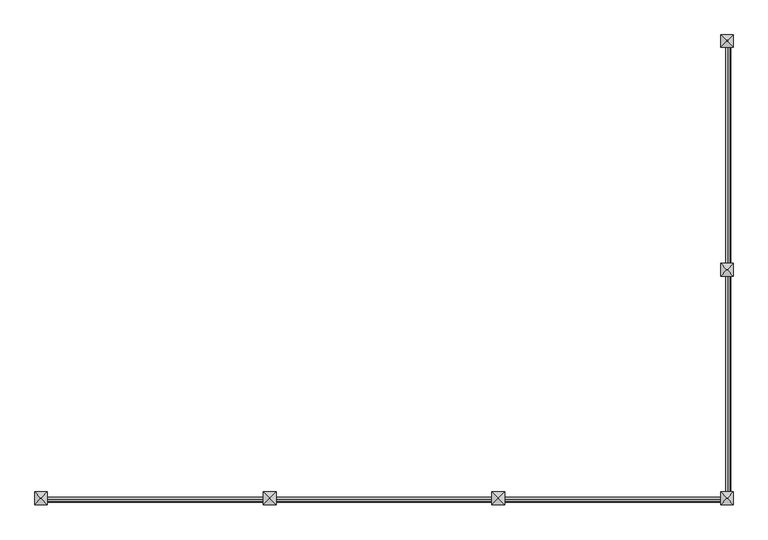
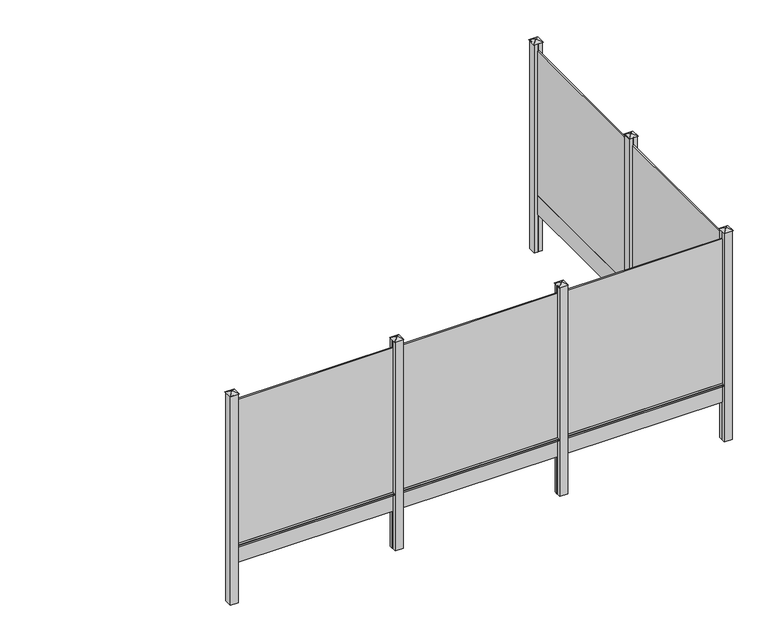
"""IFC4 building model written with IfcOpenShell, lengths in millimetres: railing geometry, Mehat - Railing - Plaque de Soubassement - Pour clôture aluminium - 200x25x1.7 cm."""

from ifc_helpers import new_model, si_unit, point, frame, frame_2d, origin, origin_with_axes, place, context, project, spatial, polyline, circle_curve, trimmed, segment, composite_curve, outline, extrude, faceted_brep, source, transform, mapped, element, save


def railing_a2a33f3b(model_context):
    return source(origin(), model_context, "Body", "SolidModel", [
        extrude(outline(polyline([(-1103.7483484, 18672.5056064), (-1120.7483484, 18672.5056064), (-1120.7483484, 20672.5056064), (-1103.7483484, 20672.5056064), (-1103.7483484, 18672.5056064)])), frame((0.0, 0.0, 250.0), z_axis=(0.0, 0.0, 1.0), x_axis=(1.0, 0.0, 0.0)), (0.0, 0.0, 1.0), 1900.0),
        extrude(outline(polyline([(-1103.7483484, 18672.5056064), (-1120.7483484, 18672.5056064), (-1120.7483484, 20672.5056064), (-1103.7483484, 20672.5056064), (-1103.7483484, 18672.5056064)])), origin_with_axes(), (0.0, 0.0, 1.0), 250.0),
        extrude(outline(composite_curve([segment(polyline([(210.0, -1103.7483484), (217.1937129, -1082.1672095)]), True, "CONTINUOUS"), segment(trimmed(circle_curve(frame_2d((221.9371294, -1083.7483484)), 5.0), [point((217.1937129, -1082.1672095))], [point((221.9371294, -1078.7483484))], False, "CARTESIAN"), True, "CONTINUOUS"), segment(polyline([(221.9371294, -1078.7483484), (238.0628706, -1078.7483484)]), True, "CONTINUOUS"), segment(trimmed(circle_curve(frame_2d((238.0628706, -1083.7483484)), 5.0), [point((238.0628706, -1078.7483484))], [point((242.8062871, -1082.1672095))], False, "CARTESIAN"), True, "CONTINUOUS"), segment(polyline([(242.8062871, -1082.1672095), (250.0, -1103.7483484), (210.0, -1103.7483484)]), True, "CONTINUOUS")], self_intersect=False)), frame((0.0, 18697.5056064, 0.0), z_axis=(0.0, 1.0, 0.0), x_axis=(0.0, 0.0, 1.0)), (0.0, 0.0, 1.0), 1950.0),
        extrude(outline(polyline([(-1062.2483484, 18597.5056064), (-1103.7483484, 18597.5056064), (-1103.7483484, 18622.5056064), (-1120.7483484, 18622.5056064), (-1120.7483484, 18597.5056064), (-1162.2483484, 18597.5056064), (-1162.2483484, 18697.5056064), (-1120.7483484, 18697.5056064), (-1120.7483484, 18672.5056064), (-1103.7483484, 18672.5056064), (-1103.7483484, 18697.5056064), (-1062.2483484, 18697.5056064), (-1062.2483484, 18597.5056064)])), frame((0.0, 0.0, -500.0), z_axis=(0.0, 0.0, 1.0), x_axis=(1.0, 0.0, 0.0)), (0.0, 0.0, 1.0), 2750.0),
        faceted_brep([(-1118.6528945, 18653.8556064, 2275.4), (-1118.6528945, 18641.1556064, 2275.4), (-1105.9528945, 18641.1556064, 2275.4), (-1105.9528945, 18653.8556064, 2275.4), (-1168.5983484, 18703.8556064, 2250.0), (-1055.8983484, 18703.8556064, 2250.0), (-1055.8983484, 18591.1556064, 2250.0), (-1168.5983484, 18591.1556064, 2250.0)], [[[0, 1, 2, 3]], [[4, 5, 6, 7]], [[4, 0, 3, 5]], [[5, 3, 2, 6]], [[6, 2, 1, 7]], [[7, 1, 0, 4]]]),
        extrude(outline(polyline([(-1103.7483484, 16622.5056064), (-1120.7483484, 16622.5056064), (-1120.7483484, 18622.5056064), (-1103.7483484, 18622.5056064), (-1103.7483484, 16622.5056064)])), frame((0.0, 0.0, 250.0), z_axis=(0.0, 0.0, 1.0), x_axis=(1.0, 0.0, 0.0)), (0.0, 0.0, 1.0), 1900.0),
        extrude(outline(polyline([(-1103.7483484, 16622.5056064), (-1120.7483484, 16622.5056064), (-1120.7483484, 18622.5056064), (-1103.7483484, 18622.5056064), (-1103.7483484, 16622.5056064)])), origin_with_axes(), (0.0, 0.0, 1.0), 250.0),
        extrude(outline(composite_curve([segment(polyline([(210.0, -1103.7483484), (217.1937129, -1082.1672095)]), True, "CONTINUOUS"), segment(trimmed(circle_curve(frame_2d((221.9371294, -1083.7483484)), 5.0), [point((217.1937129, -1082.1672095))], [point((221.9371294, -1078.7483484))], False, "CARTESIAN"), True, "CONTINUOUS"), segment(polyline([(221.9371294, -1078.7483484), (238.0628706, -1078.7483484)]), True, "CONTINUOUS"), segment(trimmed(circle_curve(frame_2d((238.0628706, -1083.7483484)), 5.0), [point((238.0628706, -1078.7483484))], [point((242.8062871, -1082.1672095))], False, "CARTESIAN"), True, "CONTINUOUS"), segment(polyline([(242.8062871, -1082.1672095), (250.0, -1103.7483484), (210.0, -1103.7483484)]), True, "CONTINUOUS")], self_intersect=False)), frame((0.0, 16647.5056064, 0.0), z_axis=(0.0, 1.0, 0.0), x_axis=(0.0, 0.0, 1.0)), (0.0, 0.0, 1.0), 1950.0),
        extrude(outline(polyline([(-3137.2483484, 16589.0056064), (-3137.2483484, 16606.0056064), (-1137.2483484, 16606.0056064), (-1137.2483484, 16589.0056064), (-3137.2483484, 16589.0056064)])), frame((0.0, 0.0, 250.0), z_axis=(0.0, 0.0, 1.0), x_axis=(1.0, 0.0, 0.0)), (0.0, 0.0, 1.0), 1900.0),
        extrude(outline(polyline([(-3137.2483484, 16589.0056064), (-3137.2483484, 16606.0056064), (-1137.2483484, 16606.0056064), (-1137.2483484, 16589.0056064), (-3137.2483484, 16589.0056064)])), origin_with_axes(), (0.0, 0.0, 1.0), 250.0),
        extrude(outline(composite_curve([segment(polyline([(16589.0056064, 210.0), (16567.4244675, 217.1937129)]), True, "CONTINUOUS"), segment(trimmed(circle_curve(frame_2d((16569.0056064, 221.9371294)), 5.0), [point((16567.4244675, 217.1937129))], [point((16564.0056064, 221.9371294))], False, "CARTESIAN"), True, "CONTINUOUS"), segment(polyline([(16564.0056064, 221.9371294), (16564.0056064, 238.0628706)]), True, "CONTINUOUS"), segment(trimmed(circle_curve(frame_2d((16569.0056064, 238.0628706)), 5.0), [point((16564.0056064, 238.0628706))], [point((16567.4244675, 242.8062871))], False, "CARTESIAN"), True, "CONTINUOUS"), segment(polyline([(16567.4244675, 242.8062871), (16589.0056064, 250.0), (16589.0056064, 210.0)]), True, "CONTINUOUS")], self_intersect=False)), frame((-3112.2483484, 0.0, 0.0), z_axis=(1.0, 0.0, 0.0), x_axis=(0.0, 1.0, 0.0)), (0.0, 0.0, 1.0), 1950.0),
        extrude(outline(polyline([(-3212.2483484, 16547.5056064), (-3212.2483484, 16589.0056064), (-3187.2483484, 16589.0056064), (-3187.2483484, 16606.0056064), (-3212.2483484, 16606.0056064), (-3212.2483484, 16647.5056064), (-3112.2483484, 16647.5056064), (-3112.2483484, 16606.0056064), (-3137.2483484, 16606.0056064), (-3137.2483484, 16589.0056064), (-3112.2483484, 16589.0056064), (-3112.2483484, 16547.5056064), (-3212.2483484, 16547.5056064)])), frame((0.0, 0.0, -500.0), z_axis=(0.0, 0.0, 1.0), x_axis=(1.0, 0.0, 0.0)), (0.0, 0.0, 1.0), 2750.0),
        faceted_brep([(-3155.8983484, 16603.9101525, 2275.4), (-3168.5983484, 16603.9101525, 2275.4), (-3168.5983484, 16591.2101525, 2275.4), (-3155.8983484, 16591.2101525, 2275.4), (-3105.8983484, 16653.8556064, 2250.0), (-3105.8983484, 16541.1556064, 2250.0), (-3218.5983484, 16541.1556064, 2250.0), (-3218.5983484, 16653.8556064, 2250.0)], [[[0, 1, 2, 3]], [[4, 5, 6, 7]], [[4, 0, 3, 5]], [[5, 3, 2, 6]], [[6, 2, 1, 7]], [[7, 1, 0, 4]]]),
        extrude(outline(polyline([(-5187.2483484, 16589.0056064), (-5187.2483484, 16606.0056064), (-3187.2483484, 16606.0056064), (-3187.2483484, 16589.0056064), (-5187.2483484, 16589.0056064)])), frame((0.0, 0.0, 250.0), z_axis=(0.0, 0.0, 1.0), x_axis=(1.0, 0.0, 0.0)), (0.0, 0.0, 1.0), 1900.0),
        extrude(outline(polyline([(-5187.2483484, 16589.0056064), (-5187.2483484, 16606.0056064), (-3187.2483484, 16606.0056064), (-3187.2483484, 16589.0056064), (-5187.2483484, 16589.0056064)])), origin_with_axes(), (0.0, 0.0, 1.0), 250.0),
        extrude(outline(composite_curve([segment(polyline([(16589.0056064, 210.0), (16567.4244675, 217.1937129)]), True, "CONTINUOUS"), segment(trimmed(circle_curve(frame_2d((16569.0056064, 221.9371294)), 5.0), [point((16567.4244675, 217.1937129))], [point((16564.0056064, 221.9371294))], False, "CARTESIAN"), True, "CONTINUOUS"), segment(polyline([(16564.0056064, 221.9371294), (16564.0056064, 238.0628706)]), True, "CONTINUOUS"), segment(trimmed(circle_curve(frame_2d((16569.0056064, 238.0628706)), 5.0), [point((16564.0056064, 238.0628706))], [point((16567.4244675, 242.8062871))], False, "CARTESIAN"), True, "CONTINUOUS"), segment(polyline([(16567.4244675, 242.8062871), (16589.0056064, 250.0), (16589.0056064, 210.0)]), True, "CONTINUOUS")], self_intersect=False)), frame((-5162.2483484, 0.0, 0.0), z_axis=(1.0, 0.0, 0.0), x_axis=(0.0, 1.0, 0.0)), (0.0, 0.0, 1.0), 1950.0),
        extrude(outline(polyline([(-5262.2483484, 16547.5056064), (-5262.2483484, 16589.0056064), (-5237.2483484, 16589.0056064), (-5237.2483484, 16606.0056064), (-5262.2483484, 16606.0056064), (-5262.2483484, 16647.5056064), (-5162.2483484, 16647.5056064), (-5162.2483484, 16606.0056064), (-5187.2483484, 16606.0056064), (-5187.2483484, 16589.0056064), (-5162.2483484, 16589.0056064), (-5162.2483484, 16547.5056064), (-5262.2483484, 16547.5056064)])), frame((0.0, 0.0, -500.0), z_axis=(0.0, 0.0, 1.0), x_axis=(1.0, 0.0, 0.0)), (0.0, 0.0, 1.0), 2750.0),
        faceted_brep([(-5205.8983484, 16603.9101525, 2275.4), (-5218.5983484, 16603.9101525, 2275.4), (-5218.5983484, 16591.2101525, 2275.4), (-5205.8983484, 16591.2101525, 2275.4), (-5155.8983484, 16653.8556064, 2250.0), (-5155.8983484, 16541.1556064, 2250.0), (-5268.5983484, 16541.1556064, 2250.0), (-5268.5983484, 16653.8556064, 2250.0)], [[[0, 1, 2, 3]], [[4, 5, 6, 7]], [[4, 0, 3, 5]], [[5, 3, 2, 6]], [[6, 2, 1, 7]], [[7, 1, 0, 4]]]),
        extrude(outline(polyline([(-7237.2483484, 16589.0056064), (-7237.2483484, 16606.0056064), (-5237.2483484, 16606.0056064), (-5237.2483484, 16589.0056064), (-7237.2483484, 16589.0056064)])), frame((0.0, 0.0, 250.0), z_axis=(0.0, 0.0, 1.0), x_axis=(1.0, 0.0, 0.0)), (0.0, 0.0, 1.0), 1900.0),
        extrude(outline(polyline([(-7237.2483484, 16589.0056064), (-7237.2483484, 16606.0056064), (-5237.2483484, 16606.0056064), (-5237.2483484, 16589.0056064), (-7237.2483484, 16589.0056064)])), origin_with_axes(), (0.0, 0.0, 1.0), 250.0),
        extrude(outline(composite_curve([segment(polyline([(16589.0056064, 210.0), (16567.4244675, 217.1937129)]), True, "CONTINUOUS"), segment(trimmed(circle_curve(frame_2d((16569.0056064, 221.9371294)), 5.0), [point((16567.4244675, 217.1937129))], [point((16564.0056064, 221.9371294))], False, "CARTESIAN"), True, "CONTINUOUS"), segment(polyline([(16564.0056064, 221.9371294), (16564.0056064, 238.0628706)]), True, "CONTINUOUS"), segment(trimmed(circle_curve(frame_2d((16569.0056064, 238.0628706)), 5.0), [point((16564.0056064, 238.0628706))], [point((16567.4244675, 242.8062871))], False, "CARTESIAN"), True, "CONTINUOUS"), segment(polyline([(16567.4244675, 242.8062871), (16589.0056064, 250.0), (16589.0056064, 210.0)]), True, "CONTINUOUS")], self_intersect=False)), frame((-7212.2483484, 0.0, 0.0), z_axis=(1.0, 0.0, 0.0), x_axis=(0.0, 1.0, 0.0)), (0.0, 0.0, 1.0), 1950.0),
        extrude(outline(polyline([(-1162.2483484, 16547.5056064), (-1162.2483484, 16589.0056064), (-1137.2483484, 16589.0056064), (-1137.2483484, 16606.0056064), (-1162.2483484, 16606.0056064), (-1162.2483484, 16647.5056064), (-1120.7483484, 16647.5056064), (-1120.7483484, 16622.5056064), (-1103.7483484, 16622.5056064), (-1103.7483484, 16647.5056064), (-1062.2483484, 16647.5056064), (-1062.2483484, 16547.5056064), (-1162.2483484, 16547.5056064)])), frame((0.0, 0.0, -500.0), z_axis=(0.0, 0.0, 1.0), x_axis=(1.0, 0.0, 0.0)), (0.0, 0.0, 1.0), 2750.0),
        faceted_brep([(-1105.8983484, 16603.9101525, 2275.4), (-1118.5983484, 16603.9101525, 2275.4), (-1118.5983484, 16591.2101525, 2275.4), (-1105.8983484, 16591.2101525, 2275.4), (-1055.8983484, 16653.8556064, 2250.0), (-1055.8983484, 16541.1556064, 2250.0), (-1168.5983484, 16541.1556064, 2250.0), (-1168.5983484, 16653.8556064, 2250.0)], [[[0, 1, 2, 3]], [[4, 5, 6, 7]], [[4, 0, 3, 5]], [[5, 3, 2, 6]], [[6, 2, 1, 7]], [[7, 1, 0, 4]]]),
        extrude(outline(polyline([(-1062.2483484, 20647.5056064), (-1103.7483484, 20647.5056064), (-1103.7483484, 20672.5056064), (-1120.7483484, 20672.5056064), (-1120.7483484, 20647.5056064), (-1162.2483484, 20647.5056064), (-1162.2483484, 20747.5056064), (-1062.2483484, 20747.5056064), (-1062.2483484, 20647.5056064)])), frame((0.0, 0.0, -500.0), z_axis=(0.0, 0.0, 1.0), x_axis=(1.0, 0.0, 0.0)), (0.0, 0.0, 1.0), 2750.0),
        faceted_brep([(-1118.6528945, 20703.8556064, 2275.4), (-1118.6528945, 20691.1556064, 2275.4), (-1105.9528945, 20691.1556064, 2275.4), (-1105.9528945, 20703.8556064, 2275.4), (-1168.5983484, 20753.8556064, 2250.0), (-1055.8983484, 20753.8556064, 2250.0), (-1055.8983484, 20641.1556064, 2250.0), (-1168.5983484, 20641.1556064, 2250.0)], [[[0, 1, 2, 3]], [[4, 5, 6, 7]], [[4, 0, 3, 5]], [[5, 3, 2, 6]], [[6, 2, 1, 7]], [[7, 1, 0, 4]]]),
        extrude(outline(polyline([(-7312.2483484, 16547.5056064), (-7312.2483484, 16647.5056064), (-7212.2483484, 16647.5056064), (-7212.2483484, 16606.0056064), (-7237.2483484, 16606.0056064), (-7237.2483484, 16589.0056064), (-7212.2483484, 16589.0056064), (-7212.2483484, 16547.5056064), (-7312.2483484, 16547.5056064)])), frame((0.0, 0.0, -500.0), z_axis=(0.0, 0.0, 1.0), x_axis=(1.0, 0.0, 0.0)), (0.0, 0.0, 1.0), 2750.0),
        faceted_brep([(-7255.8983484, 16603.9101525, 2275.4), (-7268.5983484, 16603.9101525, 2275.4), (-7268.5983484, 16591.2101525, 2275.4), (-7255.8983484, 16591.2101525, 2275.4), (-7205.8983484, 16653.8556064, 2250.0), (-7205.8983484, 16541.1556064, 2250.0), (-7318.5983484, 16541.1556064, 2250.0), (-7318.5983484, 16653.8556064, 2250.0)], [[[0, 1, 2, 3]], [[4, 5, 6, 7]], [[4, 0, 3, 5]], [[5, 3, 2, 6]], [[6, 2, 1, 7]], [[7, 1, 0, 4]]]),
    ])


if __name__ == "__main__":
    model = new_model("IFC4")
    model_context = context("Model", 3, world=origin())
    ifc_project = project(units=[si_unit("LENGTHUNIT", "METRE", prefix="MILLI")], contexts=[model_context])
    site = spatial("IfcSite", under=ifc_project)
    building = spatial("IfcBuilding", under=site)
    placement = place(None, origin())
    railing_shape = railing_a2a33f3b(model_context)
    element("IfcRailing", 1, ObjectType="Mehat - Railing - Plaque de Soubassement - Pour clôture aluminium - 200x25x1.7 cm", at=placement, inside=building, context=model_context, shape_type="MappedRepresentation", body=[
        mapped(railing_shape, transform((0.0, 0.0, 0.0), x_axis=(1.0, 0.0, 0.0), y_axis=(0.0, 1.0, 0.0), z_axis=(0.0, 0.0, 1.0))),
    ])
    save(model, "model.ifc")
